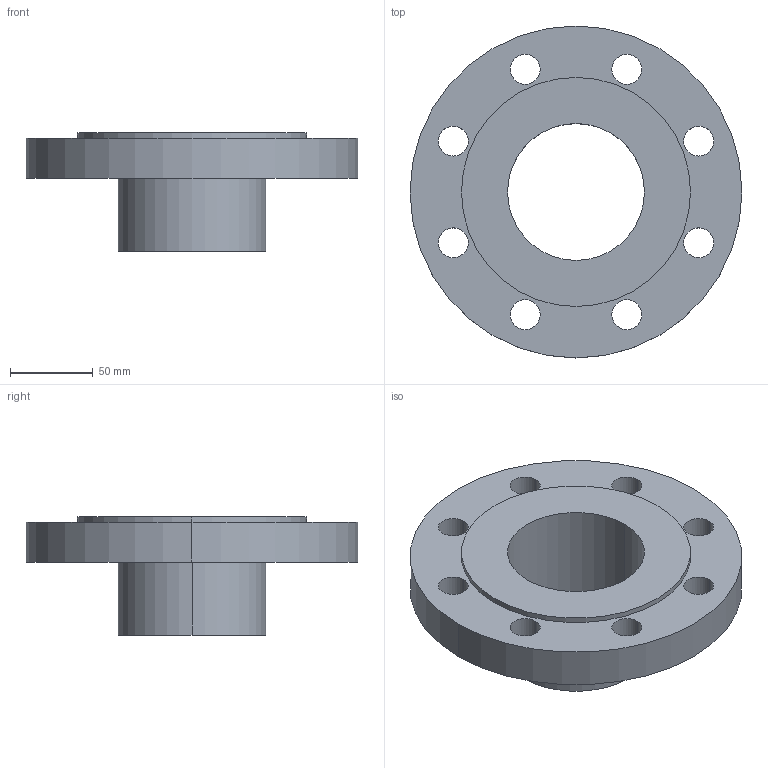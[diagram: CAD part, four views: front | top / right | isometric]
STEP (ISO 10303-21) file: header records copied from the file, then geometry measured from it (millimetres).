
FILE_DESCRIPTION (( 'STEP AP214' ), '1' );
FILE_NAME ('PN40 DN80 Type 02 in 33 - (Type A Face).STEP', '2019-01-01T19:46:27', ( '' ), ( '' ), 'SwSTEP 2.0', 'SolidWorks 2019', '' );
FILE_SCHEMA (( 'AUTOMOTIVE_DESIGN' ));
Length unit declared in the file: millimetre
Products named in the file (1): PN40 DN80 Type 02 in 33 - (Type A Face)
Bounding box: 200 x 200 x 71.2 mm (x, y, z)
Volume: 627623.4 mm3; surface area: 134035 mm2
Topology: 2 solids, 2 shells, 35 faces, 86 edges, 56 vertices
Faces by surface type: cylinder 26, plane 5, cone 4
Entity records: 1147 total; most frequent: DIRECTION 214, CARTESIAN_POINT 178, ORIENTED_EDGE 172, AXIS2_PLACEMENT_3D 92, EDGE_CURVE 86, CIRCLE 56, EDGE_LOOP 56, VERTEX_POINT 56
